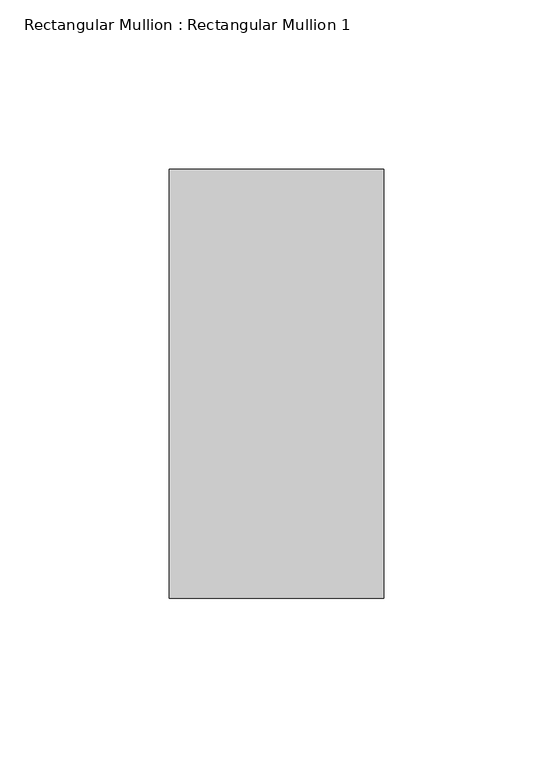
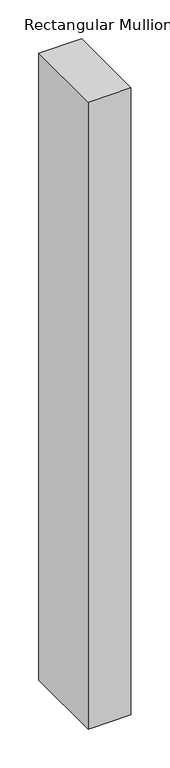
"""IFC4 building model written with IfcOpenShell, lengths in millimetres: member geometry, Rectangular Mullion : Rectangular Mullion 1."""

import ifcopenshell
import ifcopenshell.guid

model = None  # the IFC model being written
_history = None  # IfcOwnerHistory: only IFC2X3 demands one
_inside = {}  # id of a spatial element -> (the spatial element, [elements in it])
_under = {}  # id of a project, library or spatial element -> (it, [spatial elements below it])
_declared = {}  # id of a project -> (the project, [libraries it declares])
_typed = {}  # id of a type object -> (the type object, [elements of that type])
_made_of = {}  # id of a material, layer set ... -> (it, [elements and type objects made of it])


def new_model(schema):
    """Start an empty IFC model of exactly this schema.

    Asked for "IFC4X3", IfcOpenShell would pick the latest addendum, in which some entities
    have other attributes; the version numbers below select the first issue.
    IFC2X3 requires an IfcOwnerHistory on every rooted entity: one is made here for all.
    """
    global model, _history
    if schema == "IFC4X3":
        model = ifcopenshell.file(schema_version=(4, 3, 0, 0))
    else:
        model = ifcopenshell.file(schema=schema)
    _inside.clear()
    _under.clear()
    _declared.clear()
    _typed.clear()
    _made_of.clear()
    _history = None
    if model.schema == "IFC2X3":
        org = make("IfcOrganization", Name="unknown")
        user = make(
            "IfcPersonAndOrganization",
            ThePerson=make("IfcPerson", FamilyName="unknown"),
            TheOrganization=org,
        )
        app = make(
            "IfcApplication",
            ApplicationDeveloper=org,
            Version="unknown",
            ApplicationFullName="unknown",
            ApplicationIdentifier="unknown",
        )
        _history = make(
            "IfcOwnerHistory",
            OwningUser=user,
            OwningApplication=app,
            ChangeAction="ADDED",
            CreationDate=0,
        )
    return model


def make(cls, **values):
    """One entity of the class cls with the attributes given. An attribute that is None is left unset."""
    return model.create_entity(
        cls, **{name: value for name, value in values.items() if value is not None}
    )


def rooted(cls, **values):
    """An entity with a GlobalId (a new one), such as an element, a storey or a relation."""
    return make(cls, GlobalId=ifcopenshell.guid.new(), OwnerHistory=_history, **values)


def si_unit(unit_type, name, prefix=None):
    """IfcSIUnit, for example si_unit("LENGTHUNIT", "METRE", prefix="MILLI")."""
    return make("IfcSIUnit", UnitType=unit_type, Prefix=prefix, Name=name)


def assignment(units):
    """IfcUnitAssignment: the units of a project."""
    return None if units is None else make("IfcUnitAssignment", Units=units)


def point(xyz):
    """IfcCartesianPoint."""
    return None if xyz is None else make("IfcCartesianPoint", Coordinates=xyz)


def direction(xyz):
    """IfcDirection."""
    return None if xyz is None else make("IfcDirection", DirectionRatios=xyz)


def frame(location, z_axis=None, x_axis=None):
    """IfcAxis2Placement3D, a coordinate frame: its origin and axes. An axis left out is left unset."""
    return make(
        "IfcAxis2Placement3D",
        Location=point(location),
        Axis=direction(z_axis),
        RefDirection=direction(x_axis),
    )


def origin():
    """The frame at (0, 0, 0) with its axes left unset."""
    return frame((0.0, 0.0, 0.0))


def place(relative_to, where):
    """IfcLocalPlacement: puts the frame where relative to a parent placement (None: the world)."""
    return make(
        "IfcLocalPlacement", PlacementRelTo=relative_to, RelativePlacement=where
    )


def context(
    kind, dimensions, precision=None, world=None, true_north=None, identifier=None
):
    """IfcGeometricRepresentationContext, for example the 3D "Model" context."""
    return make(
        "IfcGeometricRepresentationContext",
        ContextIdentifier=identifier,
        ContextType=kind,
        CoordinateSpaceDimension=dimensions,
        Precision=precision,
        WorldCoordinateSystem=world,
        TrueNorth=true_north,
    )


def project(units=None, contexts=None):
    """IfcProject with its units and contexts."""
    return rooted(
        "IfcProject",
        Name="project",
        RepresentationContexts=contexts,
        UnitsInContext=assignment(units),
    )


def spatial(cls, under=None, at=None, **own):
    """A site, building, storey or space (cls), placed at a placement, below another one or the project."""
    s = rooted(cls, ObjectPlacement=at, **own)
    if under is not None:
        _under.setdefault(under.id(), (under, []))[1].append(s)
    return s


def polyline(points):
    """IfcPolyline through the points."""
    return make("IfcPolyline", Points=[point(p) for p in points])


def outline(outer, holes=None, kind="AREA"):
    """IfcArbitraryClosedProfileDef: a profile drawn as a closed curve; with holes, ...WithVoids."""
    if holes is None:
        return make("IfcArbitraryClosedProfileDef", ProfileType=kind, OuterCurve=outer)
    return make(
        "IfcArbitraryProfileDefWithVoids",
        ProfileType=kind,
        OuterCurve=outer,
        InnerCurves=holes,
    )


def extrude(swept, where, along, depth):
    """IfcExtrudedAreaSolid: the profile swept, set in the frame where, extruded along a direction by depth."""
    return make(
        "IfcExtrudedAreaSolid",
        SweptArea=swept,
        Position=where,
        ExtrudedDirection=direction(along),
        Depth=depth,
    )


def shape(context_of_items, identifier, shape_type, items):
    """IfcShapeRepresentation: the items that make up one representation, for example the "Body"."""
    return make(
        "IfcShapeRepresentation",
        ContextOfItems=context_of_items,
        RepresentationIdentifier=identifier,
        RepresentationType=shape_type,
        Items=items,
    )


def source(mapping_origin, context_of_items, identifier, shape_type, items):
    """IfcRepresentationMap: a shape defined once, which mapped items show again and again."""
    return make(
        "IfcRepresentationMap",
        MappingOrigin=mapping_origin,
        MappedRepresentation=shape(context_of_items, identifier, shape_type, items),
    )


def transform(
    local_origin,
    x_axis=None,
    y_axis=None,
    z_axis=None,
    scale=None,
    scale2=None,
    scale3=None,
    uniform=True,
):
    """IfcCartesianTransformationOperator3D, or its non-uniform kind. x_axis, y_axis, z_axis: its Axis1, 2, 3."""
    if uniform:
        return make(
            "IfcCartesianTransformationOperator3D",
            Axis1=direction(x_axis),
            Axis2=direction(y_axis),
            LocalOrigin=point(local_origin),
            Scale=scale,
            Axis3=direction(z_axis),
        )
    return make(
        "IfcCartesianTransformationOperator3DnonUniform",
        Axis1=direction(x_axis),
        Axis2=direction(y_axis),
        LocalOrigin=point(local_origin),
        Scale=scale,
        Axis3=direction(z_axis),
        Scale2=scale2,
        Scale3=scale3,
    )


def mapped(mapping_source, mapping_target):
    """IfcMappedItem: shows the shape of a source again, moved by a transform."""
    return make(
        "IfcMappedItem", MappingSource=mapping_source, MappingTarget=mapping_target
    )


def made_of(thing, what):
    """Note that an element or type object is made of a material, layer set ...; save() writes the relation."""
    if what is not None:
        _made_of.setdefault(what.id(), (what, []))[1].append(thing)
    return thing


def element(
    cls,
    number,
    at=None,
    inside=None,
    cuts=None,
    type_object=None,
    material=None,
    context=None,
    identifier="Body",
    shape_type=None,
    held_by="IfcProductDefinitionShape",
    body=None,
    shapes=None,
    **own,
):
    """One element of the class cls, such as IfcWall. Its Tag is "e" and its number.

    at: its placement. inside: the storey or other place that contains it. cuts: it is an
    opening in that element (IfcRelVoidsElement). A single representation is given by context,
    identifier, shape_type and body (its items); several are given by shapes. held_by: the class
    of the entity that holds the representations. save() writes the other relations.
    """
    e = rooted(cls, Tag="e%d" % number, ObjectPlacement=at, **own)
    if body is not None:
        shapes = [shape(context, identifier, shape_type, body)]
    if shapes is not None:
        e.Representation = make(held_by, Representations=shapes)
    if inside is not None:
        _inside.setdefault(inside.id(), (inside, []))[1].append(e)
    if cuts is not None:
        rooted(
            "IfcRelVoidsElement", RelatingBuildingElement=cuts, RelatedOpeningElement=e
        )
    if type_object is not None:
        _typed.setdefault(type_object.id(), (type_object, []))[1].append(e)
    return made_of(e, material)


def aggregate(whole, parts):
    """IfcRelAggregates: a whole, such as a stair, and the parts it consists of."""
    return rooted("IfcRelAggregates", RelatingObject=whole, RelatedObjects=parts)


def save(model, path):
    """Write the relations noted so far, then the file.

    IfcRelAggregates (storeys below a building ...), IfcRelContainedInSpatialStructure (elements
    in a storey), IfcRelDefinesByType, IfcRelAssociatesMaterial and IfcRelDeclares: one each for
    every whole, place, type object, material and project.
    """
    for whole, parts in _under.values():
        aggregate(whole, parts)
    for where, things in _inside.values():
        rooted(
            "IfcRelContainedInSpatialStructure",
            RelatedElements=things,
            RelatingStructure=where,
        )
    for kind, things in _typed.values():
        rooted("IfcRelDefinesByType", RelatedObjects=things, RelatingType=kind)
    for what, things in _made_of.values():
        rooted("IfcRelAssociatesMaterial", RelatedObjects=things, RelatingMaterial=what)
    for by, libraries in _declared.values():
        rooted("IfcRelDeclares", RelatingContext=by, RelatedDefinitions=libraries)
    model.write(path)


def rectangular_mullion_rectangular_mullion_1_c08724ad(model_context):
    return source(origin(), model_context, "Body", "SweptSolid", [
        extrude(outline(polyline([(0.0, 63.5), (0.0, -63.5), (-63.5, -63.5), (-63.5, 63.5), (0.0, 63.5)])), frame((0.0, 0.0, -984.6803874), z_axis=(0.0, 0.0, 1.0), x_axis=(1.0, 0.0, 0.0)), (0.0, 0.0, 1.0), 984.6803874),
    ])


if __name__ == "__main__":
    model = new_model("IFC4")
    model_context = context("Model", 3, world=origin())
    ifc_project = project(units=[si_unit("LENGTHUNIT", "METRE", prefix="MILLI")], contexts=[model_context])
    site = spatial("IfcSite", under=ifc_project)
    building = spatial("IfcBuilding", under=site)
    placement = place(None, origin())
    rectangular_mullion_rectangular_mullion_1_shape = rectangular_mullion_rectangular_mullion_1_c08724ad(model_context)
    element("IfcMember", 1, ObjectType="Rectangular Mullion : Rectangular Mullion 1", at=placement, inside=building, context=model_context, shape_type="MappedRepresentation", body=[
        mapped(rectangular_mullion_rectangular_mullion_1_shape, transform((0.0, 0.0, 0.0), x_axis=(1.0, 0.0, 0.0), y_axis=(0.0, 1.0, 0.0), z_axis=(0.0, 0.0, 1.0))),
    ])
    save(model, "model.ifc")
